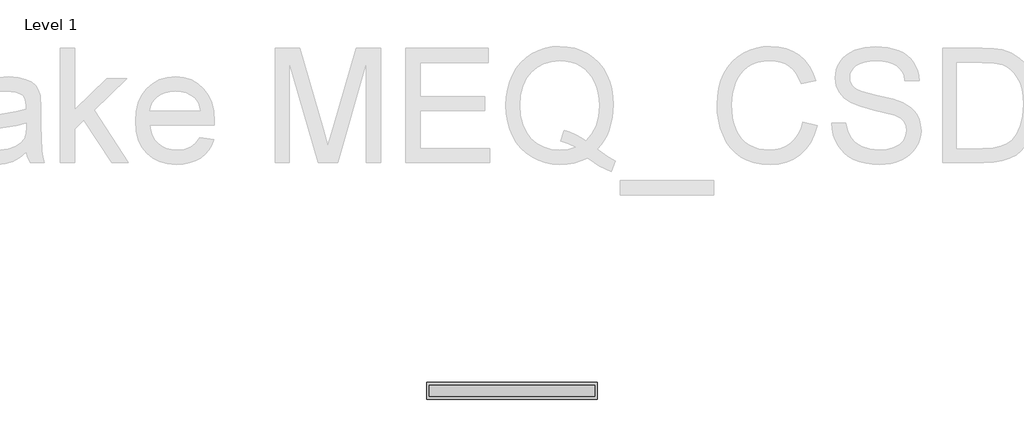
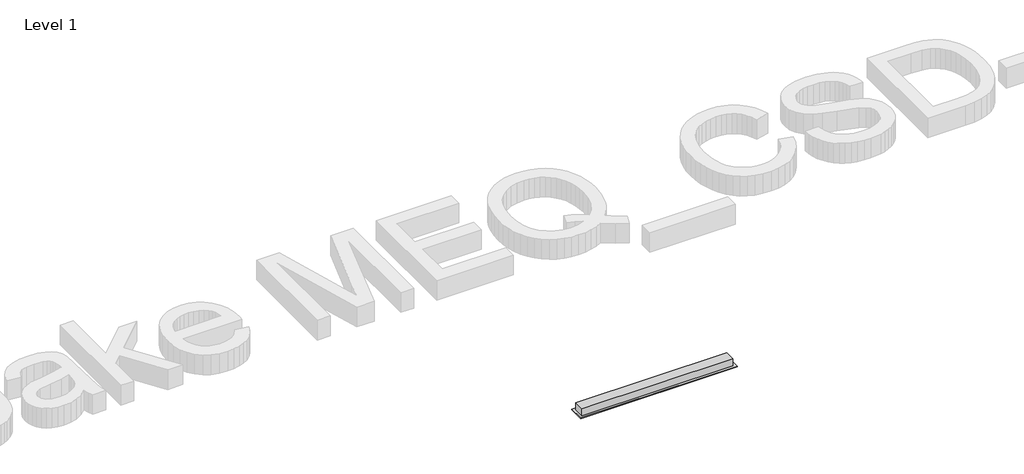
# One storey, part 1 of 2: 1 air terminal.
"""IFC4 building model written with IfcOpenShell, lengths in millimetres."""

from ifc_helpers import new_model, si_unit, origin, place, context, project, spatial, transform, mapped, element, save
from components import dc_holyoake_meq_csd_25_1slot_continuous_14_1_slot_csd_03fdfd0d

model = new_model("IFC4")

# Units and contexts
model_context = context("Model", 3, world=origin())
ifc_project = project(units=[si_unit("LENGTHUNIT", "METRE", prefix="MILLI")], contexts=[model_context])

# Site, building, storey
site = spatial("IfcSite", under=ifc_project)
building = spatial("IfcBuilding", under=site)
storey = spatial("IfcBuildingStorey", under=building, Name="Level 1", Elevation=0.0)

# Air terminal
placement = place(None, origin())
dc_holyoake_meq_csd_25_1slot_continuous_14_1_slot_csd_shape = dc_holyoake_meq_csd_25_1slot_continuous_14_1_slot_csd_03fdfd0d(model_context)
element("IfcAirTerminal", 1, ObjectType="DC_Holyoake_MEQ_CSD-25-1Slot_Continuous_14 : 1 Slot CSD Continuous", at=placement, inside=storey, context=model_context, shape_type="MappedRepresentation", body=[
    mapped(dc_holyoake_meq_csd_25_1slot_continuous_14_1_slot_csd_shape, transform((-2892.7725658, 5188.4731985, 0.0), x_axis=(1.0, 0.0, 0.0), y_axis=(0.0, 1.0, 0.0), z_axis=(0.0, 0.0, 1.0))),
])

save(model, "model.ifc")
